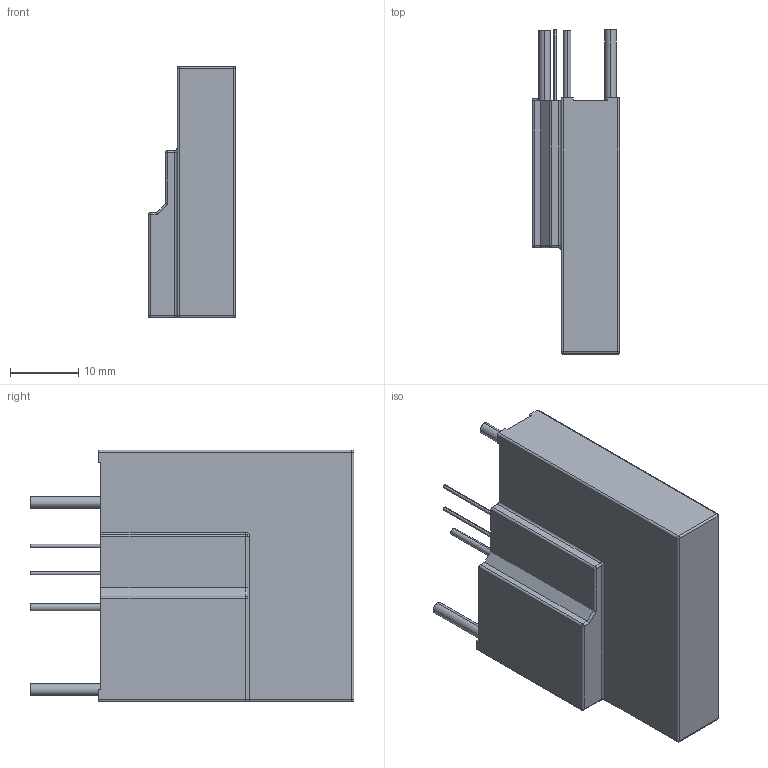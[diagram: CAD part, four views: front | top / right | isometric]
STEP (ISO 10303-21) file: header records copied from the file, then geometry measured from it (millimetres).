
FILE_DESCRIPTION((''),'2;1');
FILE_NAME('TFMOV34S','2020-07-15T13:25:59',('SET-00098'),(''),'CREO PARAMETRIC BY PTC INC, 2018400','CREO PARAMETRIC BY PTC INC, 2018400','');
FILE_SCHEMA(('CONFIG_CONTROL_DESIGN'));
Length unit declared in the file: millimetre
Products named in the file (1): TFMOV34S
Bounding box: 12.8 x 47.6 x 37 mm (x, y, z)
Volume: 13654.3 mm3; surface area: 4499.6 mm2
Topology: 1 solids, 1 shells, 75 faces, 177 edges, 109 vertices
Faces by surface type: plane 37, cylinder 29, sphere 7, torus 2
Entity records: 2179 total; most frequent: DIRECTION 381, CARTESIAN_POINT 375, ORIENTED_EDGE 354, EDGE_CURVE 177, AXIS2_PLACEMENT_3D 131, VECTOR 119, LINE 119, VERTEX_POINT 109
